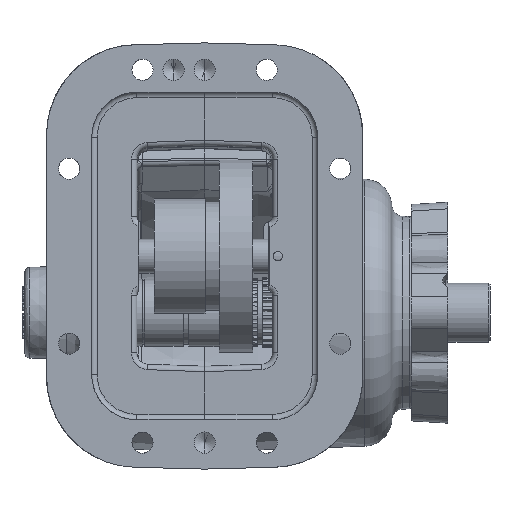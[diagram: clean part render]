
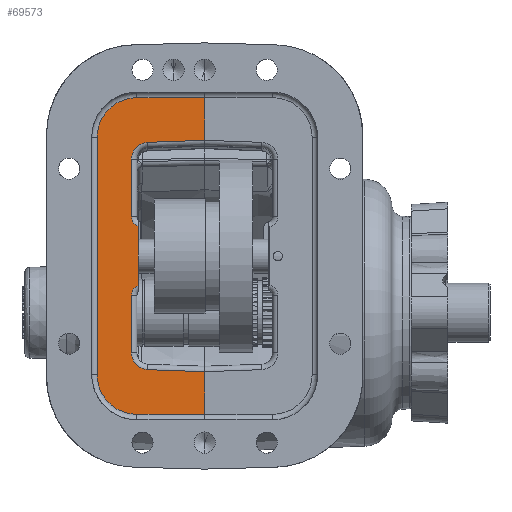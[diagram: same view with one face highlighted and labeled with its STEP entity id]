
A CAD part, front view. The second image highlights one B-rep face of the part: STEP entity #69573.
In plain terms, the highlighted planar face has unit normal (0, -1, 0).
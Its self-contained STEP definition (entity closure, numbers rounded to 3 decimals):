
#8257 = CARTESIAN_POINT ( 'NONE',  ( -10.39, -133.047, -43.129 ) ) ;
#8258 = CARTESIAN_POINT ( 'NONE',  ( -10.39, -133.047, -67.13 ) ) ;
#8263 = CARTESIAN_POINT ( 'NONE',  ( -10.39, -133.047, 110.924 ) ) ;
#8264 = CARTESIAN_POINT ( 'NONE',  ( -10.39, -133.047, 86.923 ) ) ;
#8271 = CARTESIAN_POINT ( 'NONE',  ( -48.49, -133.047, 110.924 ) ) ;
#8273 = CARTESIAN_POINT ( 'NONE',  ( -42.468, -133.047, 85.803 ) ) ;
#8274 = CARTESIAN_POINT ( 'NONE',  ( -47.728, -133.047, 5.386 ) ) ;
#8280 = CARTESIAN_POINT ( 'NONE',  ( -47.728, -133.047, 38.408 ) ) ;
#8281 = CARTESIAN_POINT ( 'NONE',  ( -51.538, -133.047, 44.059 ) ) ;
#8282 = CARTESIAN_POINT ( 'NONE',  ( -51.538, -133.047, 76.41 ) ) ;
#8283 = CARTESIAN_POINT ( 'NONE',  ( -70.842, -133.047, -44.778 ) ) ;
#8284 = CARTESIAN_POINT ( 'NONE',  ( -48.49, -133.047, -67.13 ) ) ;
#8285 = CARTESIAN_POINT ( 'NONE',  ( -42.468, -133.047, -42.009 ) ) ;
#8286 = CARTESIAN_POINT ( 'NONE',  ( -70.842, -133.047, 88.572 ) ) ;
#8287 = CARTESIAN_POINT ( 'NONE',  ( -51.538, -133.047, -0.265 ) ) ;
#8290 = CARTESIAN_POINT ( 'NONE',  ( -51.538, -133.047, -32.617 ) ) ;
#20784 = EDGE_LOOP ( 'NONE', ( #86767, #86768, #86769, #86770, #86771, #86772, #86773, #86774, #86775, #86776, #86779, #86780, #86781, #86782, #86783, #86785 ) ) ;
#50843 = VERTEX_POINT ( 'NONE', #8257 ) ;
#50846 = VERTEX_POINT ( 'NONE', #8258 ) ;
#50862 = VERTEX_POINT ( 'NONE', #8263 ) ;
#50865 = VERTEX_POINT ( 'NONE', #8264 ) ;
#50887 = VERTEX_POINT ( 'NONE', #8271 ) ;
#50895 = VERTEX_POINT ( 'NONE', #8273 ) ;
#50898 = VERTEX_POINT ( 'NONE', #8274 ) ;
#50917 = VERTEX_POINT ( 'NONE', #8280 ) ;
#50920 = VERTEX_POINT ( 'NONE', #8281 ) ;
#50923 = VERTEX_POINT ( 'NONE', #8282 ) ;
#50926 = VERTEX_POINT ( 'NONE', #8283 ) ;
#50929 = VERTEX_POINT ( 'NONE', #8284 ) ;
#50933 = VERTEX_POINT ( 'NONE', #8285 ) ;
#50936 = VERTEX_POINT ( 'NONE', #8286 ) ;
#50939 = VERTEX_POINT ( 'NONE', #8287 ) ;
#50947 = VERTEX_POINT ( 'NONE', #8290 ) ;
#64092 = FACE_OUTER_BOUND ( 'NONE', #20784, .T. ) ;
#64374 = LINE ( 'NONE', #109815, #64377 ) ;
#64377 = VECTOR ( 'NONE', #109817, 1000. ) ;
#64384 = LINE ( 'NONE', #109828, #64387 ) ;
#64387 = VECTOR ( 'NONE', #109829, 1000. ) ;
#64391 = LINE ( 'NONE', #109973, #64396 ) ;
#64395 = CIRCLE ( 'NONE', #145916, 6.096 ) ;
#64396 = VECTOR ( 'NONE', #109950, 1000. ) ;
#64397 = LINE ( 'NONE', #109972, #64399 ) ;
#64398 = CIRCLE ( 'NONE', #145918, 9.398 ) ;
#64399 = VECTOR ( 'NONE', #109971, 1000. ) ;
#64400 = LINE ( 'NONE', #109977, #64402 ) ;
#64401 = LINE ( 'NONE', #109987, #64404 ) ;
#64402 = VECTOR ( 'NONE', #109978, 1000. ) ;
#64403 = CIRCLE ( 'NONE', #145921, 22.352 ) ;
#64404 = VECTOR ( 'NONE', #109988, 1000. ) ;
#64405 = LINE ( 'NONE', #109982, #64407 ) ;
#64406 = CIRCLE ( 'NONE', #145923, 22.352 ) ;
#64407 = VECTOR ( 'NONE', #109983, 1000. ) ;
#64408 = LINE ( 'NONE', #109989, #64410 ) ;
#64409 = LINE ( 'NONE', #109999, #64412 ) ;
#64410 = VECTOR ( 'NONE', #109990, 1000. ) ;
#64411 = CIRCLE ( 'NONE', #145925, 9.398 ) ;
#64412 = VECTOR ( 'NONE', #110000, 1000. ) ;
#64413 = LINE ( 'NONE', #109994, #64415 ) ;
#64414 = CIRCLE ( 'NONE', #145928, 6.096 ) ;
#64415 = VECTOR ( 'NONE', #109995, 1000. ) ;
#69573 = ADVANCED_FACE ( 'NONE', ( #64092 ), #117941, .F. ) ;
#72173 = EDGE_CURVE ( 'NONE', #50846, #50843, #64374, .T. ) ;
#72187 = EDGE_CURVE ( 'NONE', #50865, #50862, #64384, .T. ) ;
#72222 = EDGE_CURVE ( 'NONE', #50917, #50898, #64391, .T. ) ;
#72224 = EDGE_CURVE ( 'NONE', #50920, #50917, #64395, .T. ) ;
#72226 = EDGE_CURVE ( 'NONE', #50923, #50920, #64397, .T. ) ;
#72229 = EDGE_CURVE ( 'NONE', #50895, #50923, #64398, .T. ) ;
#72231 = EDGE_CURVE ( 'NONE', #50865, #50895, #64400, .T. ) ;
#72233 = EDGE_CURVE ( 'NONE', #50887, #50862, #64401, .T. ) ;
#72236 = EDGE_CURVE ( 'NONE', #50936, #50887, #64403, .T. ) ;
#72238 = EDGE_CURVE ( 'NONE', #50926, #50936, #64405, .T. ) ;
#72240 = EDGE_CURVE ( 'NONE', #50929, #50926, #64406, .T. ) ;
#72243 = EDGE_CURVE ( 'NONE', #50846, #50929, #64408, .T. ) ;
#72245 = EDGE_CURVE ( 'NONE', #50933, #50843, #64409, .T. ) ;
#72247 = EDGE_CURVE ( 'NONE', #50947, #50933, #64411, .T. ) ;
#72250 = EDGE_CURVE ( 'NONE', #50939, #50947, #64413, .T. ) ;
#72252 = EDGE_CURVE ( 'NONE', #50898, #50939, #64414, .T. ) ;
#86767 = ORIENTED_EDGE ( 'NONE', *, *, #72222, .F. ) ;
#86768 = ORIENTED_EDGE ( 'NONE', *, *, #72224, .F. ) ;
#86769 = ORIENTED_EDGE ( 'NONE', *, *, #72226, .F. ) ;
#86770 = ORIENTED_EDGE ( 'NONE', *, *, #72229, .F. ) ;
#86771 = ORIENTED_EDGE ( 'NONE', *, *, #72231, .F. ) ;
#86772 = ORIENTED_EDGE ( 'NONE', *, *, #72187, .T. ) ;
#86773 = ORIENTED_EDGE ( 'NONE', *, *, #72233, .F. ) ;
#86774 = ORIENTED_EDGE ( 'NONE', *, *, #72236, .F. ) ;
#86775 = ORIENTED_EDGE ( 'NONE', *, *, #72238, .F. ) ;
#86776 = ORIENTED_EDGE ( 'NONE', *, *, #72240, .F. ) ;
#86779 = ORIENTED_EDGE ( 'NONE', *, *, #72243, .F. ) ;
#86780 = ORIENTED_EDGE ( 'NONE', *, *, #72173, .T. ) ;
#86781 = ORIENTED_EDGE ( 'NONE', *, *, #72245, .F. ) ;
#86782 = ORIENTED_EDGE ( 'NONE', *, *, #72247, .F. ) ;
#86783 = ORIENTED_EDGE ( 'NONE', *, *, #72250, .F. ) ;
#86785 = ORIENTED_EDGE ( 'NONE', *, *, #72252, .F. ) ;
#109815 = CARTESIAN_POINT ( 'NONE',  ( -10.39, -133.047, -95.578 ) ) ;
#109817 = DIRECTION ( 'NONE',  ( 0., 0., 1. ) ) ;
#109828 = CARTESIAN_POINT ( 'NONE',  ( -10.39, -133.047, -95.578 ) ) ;
#109829 = DIRECTION ( 'NONE',  ( 0., 0., 1. ) ) ;
#109950 = DIRECTION ( 'NONE',  ( 0., 0., -1. ) ) ;
#109971 = DIRECTION ( 'NONE',  ( 0., 0., -1. ) ) ;
#109972 = CARTESIAN_POINT ( 'NONE',  ( -51.538, -133.047, 44.059 ) ) ;
#109973 = CARTESIAN_POINT ( 'NONE',  ( -47.728, -133.047, -95.578 ) ) ;
#109977 = CARTESIAN_POINT ( 'NONE',  ( -42.468, -133.047, 85.803 ) ) ;
#109978 = DIRECTION ( 'NONE',  ( -0.999, 0., -0.035 ) ) ;
#109979 = CARTESIAN_POINT ( 'NONE',  ( -45.442, -133.047, 44.059 ) ) ;
#109980 = DIRECTION ( 'NONE',  ( 0., -1., 0. ) ) ;
#109981 = DIRECTION ( 'NONE',  ( 0., 0., -1. ) ) ;
#109982 = CARTESIAN_POINT ( 'NONE',  ( -70.842, -133.047, 88.572 ) ) ;
#109983 = DIRECTION ( 'NONE',  ( 0., 0., 1. ) ) ;
#109984 = CARTESIAN_POINT ( 'NONE',  ( -42.14, -133.047, 76.41 ) ) ;
#109985 = DIRECTION ( 'NONE',  ( 0., -1., 0. ) ) ;
#109986 = DIRECTION ( 'NONE',  ( 0., 0., -1. ) ) ;
#109987 = CARTESIAN_POINT ( 'NONE',  ( -10.39, -133.047, 110.924 ) ) ;
#109988 = DIRECTION ( 'NONE',  ( 1., 0., 0. ) ) ;
#109989 = CARTESIAN_POINT ( 'NONE',  ( -48.49, -133.047, -67.13 ) ) ;
#109990 = DIRECTION ( 'NONE',  ( -1., 0., 0. ) ) ;
#109991 = CARTESIAN_POINT ( 'NONE',  ( -48.49, -133.047, 88.572 ) ) ;
#109992 = DIRECTION ( 'NONE',  ( 0., 1., 0. ) ) ;
#109993 = DIRECTION ( 'NONE',  ( 0., 0., -1. ) ) ;
#109994 = CARTESIAN_POINT ( 'NONE',  ( -51.538, -133.047, -32.617 ) ) ;
#109995 = DIRECTION ( 'NONE',  ( 0., 0., -1. ) ) ;
#109996 = CARTESIAN_POINT ( 'NONE',  ( -48.49, -133.047, -44.778 ) ) ;
#109997 = DIRECTION ( 'NONE',  ( 0., 1., 0. ) ) ;
#109998 = DIRECTION ( 'NONE',  ( 0., 0., -1. ) ) ;
#109999 = CARTESIAN_POINT ( 'NONE',  ( -10.497, -133.047, -43.125 ) ) ;
#110000 = DIRECTION ( 'NONE',  ( 0.999, 0., -0.035 ) ) ;
#110002 = CARTESIAN_POINT ( 'NONE',  ( -42.14, -133.047, -32.617 ) ) ;
#110003 = DIRECTION ( 'NONE',  ( 0., -1., 0. ) ) ;
#110004 = DIRECTION ( 'NONE',  ( 0., 0., -1. ) ) ;
#110007 = CARTESIAN_POINT ( 'NONE',  ( -45.442, -133.047, -0.265 ) ) ;
#110008 = DIRECTION ( 'NONE',  ( 0., -1., 0. ) ) ;
#110009 = DIRECTION ( 'NONE',  ( 0., 0., -1. ) ) ;
#117934 = CARTESIAN_POINT ( 'NONE',  ( -99.29, -133.047, -95.578 ) ) ;
#117941 = PLANE ( 'NONE',  #145441 ) ;
#117949 = DIRECTION ( 'NONE',  ( 0., 1., 0. ) ) ;
#117952 = DIRECTION ( 'NONE',  ( 0., 0., -1. ) ) ;
#145441 = AXIS2_PLACEMENT_3D ( 'NONE', #117934, #117949, #117952 ) ;
#145916 = AXIS2_PLACEMENT_3D ( 'NONE', #109979, #109980, #109981 ) ;
#145918 = AXIS2_PLACEMENT_3D ( 'NONE', #109984, #109985, #109986 ) ;
#145921 = AXIS2_PLACEMENT_3D ( 'NONE', #109991, #109992, #109993 ) ;
#145923 = AXIS2_PLACEMENT_3D ( 'NONE', #109996, #109997, #109998 ) ;
#145925 = AXIS2_PLACEMENT_3D ( 'NONE', #110002, #110003, #110004 ) ;
#145928 = AXIS2_PLACEMENT_3D ( 'NONE', #110007, #110008, #110009 ) ;
